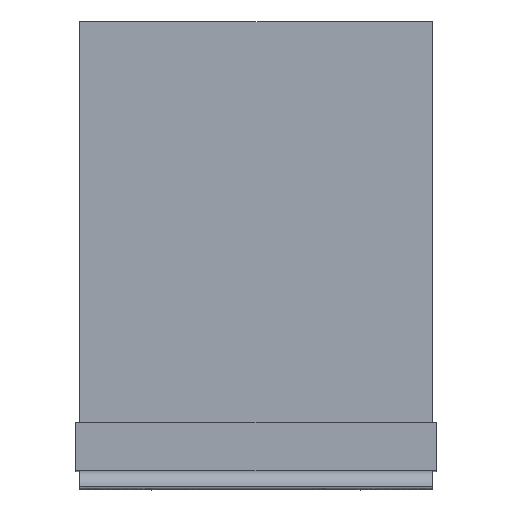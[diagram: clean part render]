
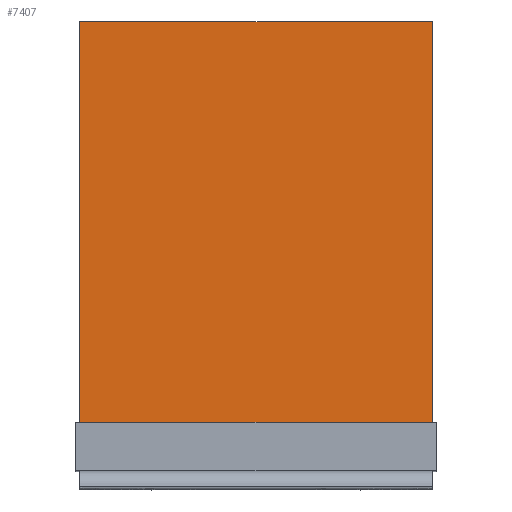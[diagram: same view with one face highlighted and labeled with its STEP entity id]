
A CAD part, top view. The second image highlights one B-rep face of the part: STEP entity #7407.
In plain terms, the highlighted planar face has unit normal (0, 0, 1).
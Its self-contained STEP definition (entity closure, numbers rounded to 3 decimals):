
#419=PLANE('',#8271);
#1136=ORIENTED_EDGE('',*,*,#2875,.F.);
#1137=ORIENTED_EDGE('',*,*,#2876,.F.);
#1138=ORIENTED_EDGE('',*,*,#2877,.F.);
#1139=ORIENTED_EDGE('',*,*,#2870,.F.);
#2870=EDGE_CURVE('',#3750,#3751,#4474,.T.);
#2875=EDGE_CURVE('',#3754,#3750,#4479,.T.);
#2876=EDGE_CURVE('',#3755,#3754,#4480,.T.);
#2877=EDGE_CURVE('',#3751,#3755,#4481,.T.);
#3750=VERTEX_POINT('',#11343);
#3751=VERTEX_POINT('',#11345);
#3754=VERTEX_POINT('',#11355);
#3755=VERTEX_POINT('',#11357);
#4474=LINE('',#11344,#5008);
#4479=LINE('',#11354,#5013);
#4480=LINE('',#11356,#5014);
#4481=LINE('',#11358,#5015);
#5008=VECTOR('',#9206,1000.);
#5013=VECTOR('',#9215,1000.);
#5014=VECTOR('',#9216,1000.);
#5015=VECTOR('',#9217,1000.);
#5504=EDGE_LOOP('',(#1136,#1137,#1138,#1139));
#6386=FACE_BOUND('',#5504,.T.);
#7407=ADVANCED_FACE('',(#6386),#419,.F.);
#8271=AXIS2_PLACEMENT_3D('',#11353,#9213,#9214);
#9206=DIRECTION('',(0.,1.,0.));
#9213=DIRECTION('',(0.,0.,-1.));
#9214=DIRECTION('',(-1.,0.,0.));
#9215=DIRECTION('',(-1.,0.,0.));
#9216=DIRECTION('',(0.,-1.,0.));
#9217=DIRECTION('',(1.,0.,0.));
#11343=CARTESIAN_POINT('',(5.,45.,665.));
#11344=CARTESIAN_POINT('',(5.,45.,665.));
#11345=CARTESIAN_POINT('',(5.,510.,665.));
#11353=CARTESIAN_POINT('',(5.,45.,665.));
#11354=CARTESIAN_POINT('',(5.,45.,665.));
#11355=CARTESIAN_POINT('',(405.,45.,665.));
#11356=CARTESIAN_POINT('',(405.,45.,665.));
#11357=CARTESIAN_POINT('',(405.,510.,665.));
#11358=CARTESIAN_POINT('',(5.,510.,665.));
